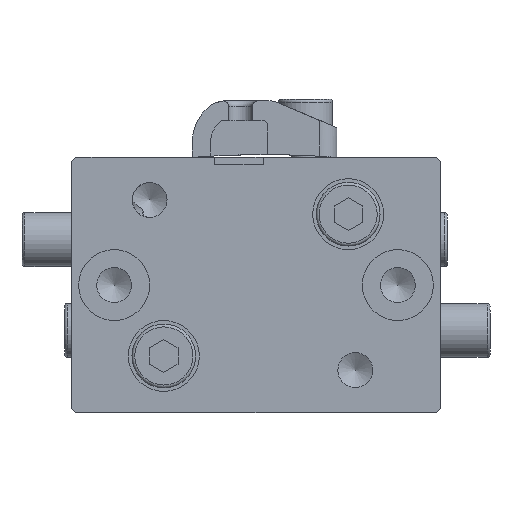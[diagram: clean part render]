
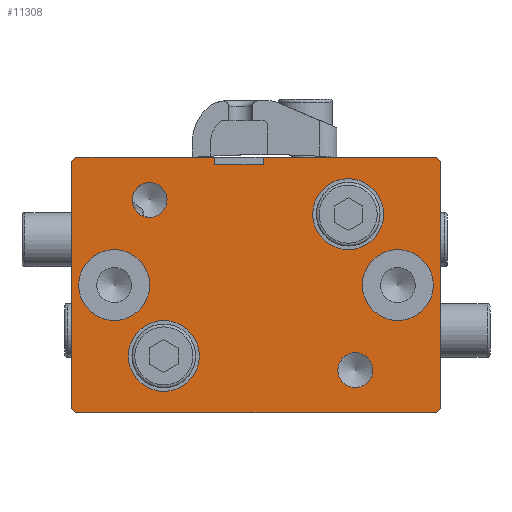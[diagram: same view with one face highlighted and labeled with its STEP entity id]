
A CAD part, front view. The second image highlights one B-rep face of the part: STEP entity #11308.
In plain terms, the highlighted planar face has unit normal (0, -1, 0) as drawn and (0, 1, 0) by its records, which use the part's own axes.
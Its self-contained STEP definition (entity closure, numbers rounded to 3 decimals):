
#282=CIRCLE('',#11858,1.23);
#283=CIRCLE('',#11859,1.23);
#284=CIRCLE('',#11860,2.5);
#285=CIRCLE('',#11861,2.5);
#286=CIRCLE('',#11862,2.5);
#287=CIRCLE('',#11863,2.5);
#587=ORIENTED_EDGE('',*,*,#3128,.T.);
#588=ORIENTED_EDGE('',*,*,#3129,.T.);
#589=ORIENTED_EDGE('',*,*,#3130,.T.);
#590=ORIENTED_EDGE('',*,*,#3131,.T.);
#591=ORIENTED_EDGE('',*,*,#3132,.T.);
#592=ORIENTED_EDGE('',*,*,#3133,.T.);
#593=ORIENTED_EDGE('',*,*,#3134,.T.);
#594=ORIENTED_EDGE('',*,*,#3135,.T.);
#595=ORIENTED_EDGE('',*,*,#3113,.T.);
#596=ORIENTED_EDGE('',*,*,#3136,.T.);
#597=ORIENTED_EDGE('',*,*,#3080,.T.);
#598=ORIENTED_EDGE('',*,*,#3137,.T.);
#599=ORIENTED_EDGE('',*,*,#3138,.T.);
#600=ORIENTED_EDGE('',*,*,#3139,.T.);
#601=ORIENTED_EDGE('',*,*,#3140,.T.);
#602=ORIENTED_EDGE('',*,*,#3141,.T.);
#603=ORIENTED_EDGE('',*,*,#3116,.T.);
#604=ORIENTED_EDGE('',*,*,#3142,.F.);
#3080=EDGE_CURVE('',#4353,#4352,#5240,.T.);
#3113=EDGE_CURVE('',#4382,#4384,#5264,.T.);
#3116=EDGE_CURVE('',#4388,#4386,#5266,.T.);
#3128=EDGE_CURVE('',#4399,#4399,#282,.T.);
#3129=EDGE_CURVE('',#4400,#4400,#283,.T.);
#3130=EDGE_CURVE('',#4401,#4401,#284,.T.);
#3131=EDGE_CURVE('',#4402,#4402,#285,.T.);
#3132=EDGE_CURVE('',#4403,#4403,#286,.T.);
#3133=EDGE_CURVE('',#4404,#4404,#287,.T.);
#3134=EDGE_CURVE('',#4405,#4406,#5277,.T.);
#3135=EDGE_CURVE('',#4406,#4382,#5278,.T.);
#3136=EDGE_CURVE('',#4384,#4353,#5279,.T.);
#3137=EDGE_CURVE('',#4352,#4407,#5280,.T.);
#3138=EDGE_CURVE('',#4407,#4408,#5281,.T.);
#3139=EDGE_CURVE('',#4408,#4409,#5282,.T.);
#3140=EDGE_CURVE('',#4409,#4410,#5283,.T.);
#3141=EDGE_CURVE('',#4410,#4388,#5284,.T.);
#3142=EDGE_CURVE('',#4405,#4386,#5285,.T.);
#4352=VERTEX_POINT('',#15201);
#4353=VERTEX_POINT('',#15203);
#4382=VERTEX_POINT('',#15303);
#4384=VERTEX_POINT('',#15307);
#4386=VERTEX_POINT('',#15313);
#4388=VERTEX_POINT('',#15316);
#4399=VERTEX_POINT('',#15342);
#4400=VERTEX_POINT('',#15344);
#4401=VERTEX_POINT('',#15346);
#4402=VERTEX_POINT('',#15348);
#4403=VERTEX_POINT('',#15350);
#4404=VERTEX_POINT('',#15352);
#4405=VERTEX_POINT('',#15354);
#4406=VERTEX_POINT('',#15355);
#4407=VERTEX_POINT('',#15359);
#4408=VERTEX_POINT('',#15361);
#4409=VERTEX_POINT('',#15363);
#4410=VERTEX_POINT('',#15365);
#5240=LINE('',#15202,#6244);
#5264=LINE('',#15308,#6268);
#5266=LINE('',#15315,#6270);
#5277=LINE('',#15353,#6281);
#5278=LINE('',#15356,#6282);
#5279=LINE('',#15357,#6283);
#5280=LINE('',#15358,#6284);
#5281=LINE('',#15360,#6285);
#5282=LINE('',#15362,#6286);
#5283=LINE('',#15364,#6287);
#5284=LINE('',#15366,#6288);
#5285=LINE('',#15367,#6289);
#6244=VECTOR('',#12637,1000.);
#6268=VECTOR('',#12675,1000.);
#6270=VECTOR('',#12681,1000.);
#6281=VECTOR('',#12712,1000.);
#6282=VECTOR('',#12713,1000.);
#6283=VECTOR('',#12714,1000.);
#6284=VECTOR('',#12715,1000.);
#6285=VECTOR('',#12716,1000.);
#6286=VECTOR('',#12717,1000.);
#6287=VECTOR('',#12718,1000.);
#6288=VECTOR('',#12719,1000.);
#6289=VECTOR('',#12720,1000.);
#7252=EDGE_LOOP('',(#587));
#7253=EDGE_LOOP('',(#588));
#7254=EDGE_LOOP('',(#589));
#7255=EDGE_LOOP('',(#590));
#7256=EDGE_LOOP('',(#591));
#7257=EDGE_LOOP('',(#592));
#7258=EDGE_LOOP('',(#593,#594,#595,#596,#597,#598,#599,#600,#601,#602,#603,
#604));
#7885=FACE_BOUND('',#7252,.T.);
#7886=FACE_BOUND('',#7253,.T.);
#7887=FACE_BOUND('',#7254,.T.);
#7888=FACE_BOUND('',#7255,.T.);
#7889=FACE_BOUND('',#7256,.T.);
#7890=FACE_BOUND('',#7257,.T.);
#7891=FACE_BOUND('',#7258,.T.);
#8522=PLANE('',#11857);
#11308=ADVANCED_FACE('',(#7885,#7886,#7887,#7888,#7889,#7890,#7891),#8522,
 .T.);
#11857=AXIS2_PLACEMENT_3D('',#15340,#12698,#12699);
#11858=AXIS2_PLACEMENT_3D('',#15341,#12700,#12701);
#11859=AXIS2_PLACEMENT_3D('',#15343,#12702,#12703);
#11860=AXIS2_PLACEMENT_3D('',#15345,#12704,#12705);
#11861=AXIS2_PLACEMENT_3D('',#15347,#12706,#12707);
#11862=AXIS2_PLACEMENT_3D('',#15349,#12708,#12709);
#11863=AXIS2_PLACEMENT_3D('',#15351,#12710,#12711);
#12637=DIRECTION('',(0.,0.,1.));
#12675=DIRECTION('',(-1.,0.,0.));
#12681=DIRECTION('',(-1.,0.,0.));
#12698=DIRECTION('',(0.,1.,0.));
#12699=DIRECTION('',(0.,0.,1.));
#12700=DIRECTION('',(0.,-1.,0.));
#12701=DIRECTION('',(0.,0.,-1.));
#12702=DIRECTION('',(0.,-1.,0.));
#12703=DIRECTION('',(0.,0.,-1.));
#12704=DIRECTION('',(0.,-1.,0.));
#12705=DIRECTION('',(0.,0.,-1.));
#12706=DIRECTION('',(0.,-1.,0.));
#12707=DIRECTION('',(0.,0.,-1.));
#12708=DIRECTION('',(0.,-1.,0.));
#12709=DIRECTION('',(1.,0.,0.));
#12710=DIRECTION('',(0.,-1.,0.));
#12711=DIRECTION('',(1.,0.,0.));
#12712=DIRECTION('',(-1.,0.,0.));
#12713=DIRECTION('',(0.,0.,-1.));
#12714=DIRECTION('',(-0.707,0.,0.707));
#12715=DIRECTION('',(0.707,0.,0.707));
#12716=DIRECTION('',(1.,0.,0.));
#12717=DIRECTION('',(0.707,0.,-0.707));
#12718=DIRECTION('',(0.,0.,-1.));
#12719=DIRECTION('',(-0.707,0.,-0.707));
#12720=DIRECTION('',(0.,0.,-1.));
#15201=CARTESIAN_POINT('',(-13.,26.,8.7));
#15202=CARTESIAN_POINT('',(-13.,26.,-8.7));
#15203=CARTESIAN_POINT('',(-13.,26.,-8.7));
#15303=CARTESIAN_POINT('',(-2.9,26.,-9.));
#15307=CARTESIAN_POINT('',(-12.7,26.,-9.));
#15308=CARTESIAN_POINT('',(12.7,26.,-9.));
#15313=CARTESIAN_POINT('',(0.5,26.,-9.));
#15315=CARTESIAN_POINT('',(12.7,26.,-9.));
#15316=CARTESIAN_POINT('',(12.7,26.,-9.));
#15340=CARTESIAN_POINT('',(0.,26.,0.));
#15341=CARTESIAN_POINT('',(7.,26.,6.));
#15342=CARTESIAN_POINT('',(7.,26.,4.77));
#15343=CARTESIAN_POINT('',(-7.5,26.,-6.));
#15344=CARTESIAN_POINT('',(-7.5,26.,-7.23));
#15345=CARTESIAN_POINT('',(-6.5,26.,5.));
#15346=CARTESIAN_POINT('',(-6.5,26.,2.5));
#15347=CARTESIAN_POINT('',(6.5,26.,-5.));
#15348=CARTESIAN_POINT('',(6.5,26.,-7.5));
#15349=CARTESIAN_POINT('',(-10.,26.,0.));
#15350=CARTESIAN_POINT('',(-7.5,26.,0.));
#15351=CARTESIAN_POINT('',(10.,26.,0.));
#15352=CARTESIAN_POINT('',(12.5,26.,0.));
#15353=CARTESIAN_POINT('',(0.5,26.,-8.5));
#15354=CARTESIAN_POINT('',(0.5,26.,-8.5));
#15355=CARTESIAN_POINT('',(-2.9,26.,-8.5));
#15356=CARTESIAN_POINT('',(-2.9,26.,-8.5));
#15357=CARTESIAN_POINT('',(-12.7,26.,-9.));
#15358=CARTESIAN_POINT('',(-13.,26.,8.7));
#15359=CARTESIAN_POINT('',(-12.7,26.,9.));
#15360=CARTESIAN_POINT('',(-12.7,26.,9.));
#15361=CARTESIAN_POINT('',(12.7,26.,9.));
#15362=CARTESIAN_POINT('',(12.7,26.,9.));
#15363=CARTESIAN_POINT('',(13.,26.,8.7));
#15364=CARTESIAN_POINT('',(13.,26.,8.7));
#15365=CARTESIAN_POINT('',(13.,26.,-8.7));
#15366=CARTESIAN_POINT('',(13.,26.,-8.7));
#15367=CARTESIAN_POINT('',(0.5,26.,-8.5));
